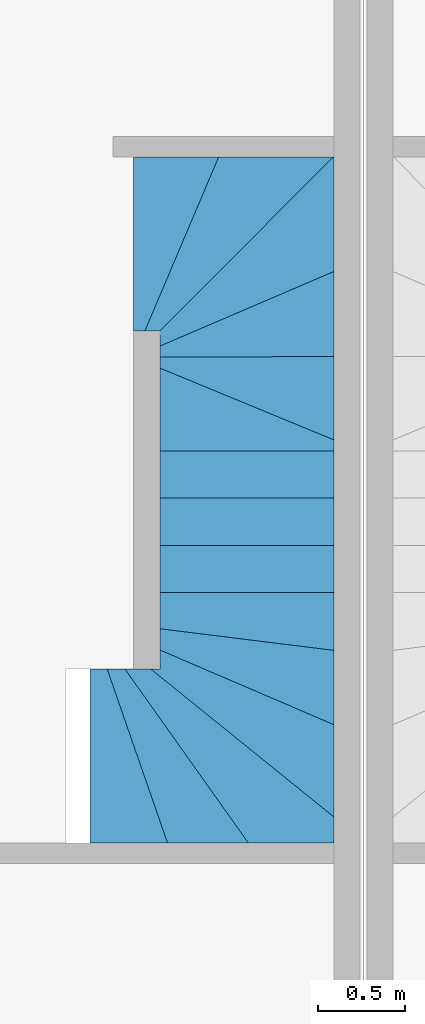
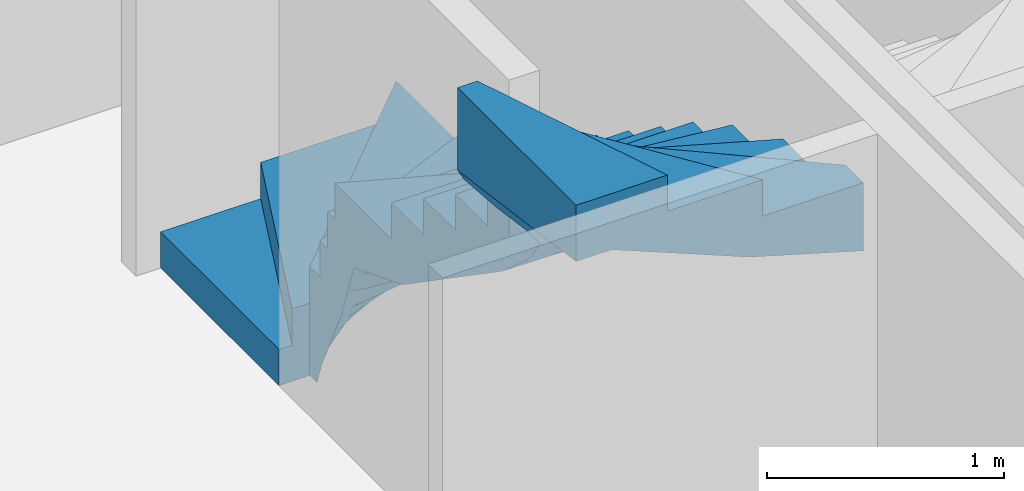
# One storey, part 5 of 8: 1 stair.
"""IFC2X3 building model written with IfcOpenShell, lengths in metres."""

from ifc_helpers import new_model, entity, si_unit, converted_unit, money_unit, direction, frame, origin_with_axes, place, context, subcontext, project, spatial, faceted_brep, source, transform, mapped, material, element, save


model = new_model("IFC2X3")

# Units and contexts
model_context = context("Model", 3, precision=1e-05, world=origin_with_axes(), true_north=direction((0.0, 1.0)))
body_context = subcontext(model_context, "Body", "Model", "MODEL_VIEW")
ifc_project = project(units=[si_unit("LENGTHUNIT", "METRE"), si_unit("AREAUNIT", "SQUARE_METRE"), si_unit("VOLUMEUNIT", "CUBIC_METRE"), converted_unit("PLANEANGLEUNIT", "DEGREE", entity("IfcPlaneAngleMeasure", 0.0174532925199), si_unit("PLANEANGLEUNIT", "RADIAN"), dimensions=[0, 0, 0, 0, 0, 0, 0]), si_unit("SOLIDANGLEUNIT", "STERADIAN"), money_unit("EUR"), si_unit("TIMEUNIT", "SECOND"), si_unit("MASSUNIT", "GRAM"), si_unit("THERMODYNAMICTEMPERATUREUNIT", "DEGREE_CELSIUS"), si_unit("LUMINOUSINTENSITYUNIT", "LUMEN")], contexts=[model_context])

# Site, building, storey
site_placement = place(None, origin_with_axes())
site = spatial("IfcSite", under=ifc_project, at=site_placement, Name="Gelände", CompositionType="ELEMENT")
building_placement = place(site_placement, origin_with_axes())
building = spatial("IfcBuilding", under=site, at=building_placement, Name="Gebäude", CompositionType="ELEMENT")
storey_placement = place(building_placement, origin_with_axes())
storey = spatial("IfcBuildingStorey", under=building, at=storey_placement, Name="Erdgeschoss", CompositionType="ELEMENT", Elevation=0.0)

# Stair
ifc_material = material(Name="Beton")
shared_shape = source(origin_with_axes(), body_context, "Body", "Brep", [
    faceted_brep([(0.0, 0.0, 0.0), (1.0, 0.0, 0.0), (1.0, 0.0, 0.005), (0.0, 0.0, 0.005), (1.0, 0.0375, 0.0), (1.0, 0.0375, 0.18667), (1.0, 0.0, 0.18667), (0.0, 0.0, 0.18667), (0.0, 0.03966, 0.18667), (0.0, 0.03966, 0.0), (1.0, 0.06362, 0.0), (1.0, 0.06362, 0.18667), (0.0, 0.48778, 0.18667), (0.0, 0.47586, 0.18667), (0.0, 0.43621, 0.18667), (0.0, 0.39655, 0.18667), (0.0, 0.3569, 0.18667), (0.0, 0.31724, 0.18667), (0.0, 0.27759, 0.18667), (0.0, 0.23793, 0.18667), (0.0, 0.19828, 0.18667), (0.0, 0.15862, 0.18667), (0.0, 0.11897, 0.18667), (0.0, 0.07931, 0.18667), (0.0, 0.07931, 0.0), (1.0, 0.14947, 0.0), (1.0, 0.075, 0.0), (1.0, 0.075, 0.37333), (1.0, 0.06362, 0.37333), (0.0, 0.48778, 0.37333), (0.0, 0.47586, 0.0), (0.0, 0.48778, 0.0), (0.0, 0.43621, 0.0), (0.0, 0.39655, 0.0), (0.0, 0.3569, 0.0), (0.0, 0.31724, 0.0), (0.0, 0.27759, 0.0), (0.0, 0.23793, 0.0), (0.0, 0.19828, 0.0), (0.0, 0.15862, 0.0), (0.0, 0.11897, 0.0), (1.0, 0.1125, 0.0), (1.0, 0.1125, 0.37333), (1.0, 0.14947, 0.37333), (0.0, 1.14594, 0.37333), (0.0, 1.11034, 0.37333), (0.0, 1.07069, 0.37333), (0.0, 1.03103, 0.37333), (0.0, 0.99138, 0.37333), (0.0, 0.95172, 0.37333), (0.0, 0.91207, 0.37333), (0.0, 0.87241, 0.37333), (0.0, 0.83276, 0.37333), (0.0, 0.7931, 0.37333), (0.0, 0.75345, 0.37333), (0.0, 0.71379, 0.37333), (0.0, 0.67414, 0.37333), (0.0, 0.63448, 0.37333), (0.0, 0.59483, 0.37333), (0.0, 0.5626, 0.37333), (0.0, 0.55517, 0.37333), (0.0, 0.51552, 0.37333), (0.0, 0.51552, 0.0), (1.0613, 0.15, 0.0), (1.0, 0.14947, 0.56), (0.0, 1.14594, 0.56), (0.0, 1.11034, 0.15496), (0.0, 1.14594, 0.16503), (0.0, 1.07069, 0.14374), (0.0, 1.03103, 0.13252), (0.0, 0.99138, 0.1213), (0.0, 0.95172, 0.11009), (0.0, 0.91207, 0.09887), (0.0, 0.87241, 0.08765), (0.0, 0.83276, 0.07643), (0.0, 0.7931, 0.06521), (0.0, 0.75345, 0.05399), (0.0, 0.71379, 0.04277), (0.0, 0.67414, 0.03155), (0.0, 0.63448, 0.02034), (0.0, 0.59483, 0.00912), (0.0, 0.5626, 0.0), (0.0, 0.55517, 0.0), (1.03959, 0.15, 0.0), (1.03959, 0.15, 0.56), (1.0613, 0.15, 0.56), (1.07918, 0.15, 0.56), (1.08574, 0.15, 0.56), (0.65732, 1.15, 0.56), (0.63677, 1.15, 0.56), (0.59697, 1.15, 0.56), (0.55717, 1.15, 0.56), (0.51737, 1.15, 0.56), (0.47758, 1.15, 0.56), (0.43778, 1.15, 0.56), (0.39798, 1.15, 0.56), (0.35818, 1.15, 0.56), (0.31838, 1.15, 0.56), (0.27859, 1.15, 0.56), (0.23879, 1.15, 0.56), (0.19899, 1.15, 0.56), (0.15919, 1.15, 0.56), (0.11939, 1.15, 0.56), (0.0796, 1.15, 0.56), (0.0398, 1.15, 0.56), (0.0, 1.15, 0.56), (0.0, 1.15, 0.16618), (1.11878, 0.15, 0.15398), (1.09962, 0.15, 0.11243), (1.08574, 0.15, 0.0717), (1.07918, 0.15, 0.05248), (1.08574, 0.15, 0.74667), (0.65732, 1.15, 0.74667), (0.63677, 1.15, 0.34633), (0.65732, 1.15, 0.35214), (0.59697, 1.15, 0.33507), (0.55717, 1.15, 0.32381), (0.51737, 1.15, 0.31255), (0.47758, 1.15, 0.30129), (0.43778, 1.15, 0.29003), (0.39798, 1.15, 0.27877), (0.35818, 1.15, 0.26751), (0.31838, 1.15, 0.25625), (0.27859, 1.15, 0.245), (0.23879, 1.15, 0.23374), (0.19899, 1.15, 0.22248), (0.15919, 1.15, 0.21122), (0.11939, 1.15, 0.19996), (0.0796, 1.15, 0.1887), (0.0398, 1.15, 0.17744), (1.09962, 0.15, 0.74667), (1.11878, 0.15, 0.74667), (1.14942, 0.15, 0.74667), (1.14554, 1.15, 0.74667), (1.11434, 1.15, 0.74667), (1.07455, 1.15, 0.74667), (1.03475, 1.15, 0.74667), (0.99495, 1.15, 0.74667), (0.95515, 1.15, 0.74667), (0.91535, 1.15, 0.74667), (0.87556, 1.15, 0.74667), (0.83576, 1.15, 0.74667), (0.79596, 1.15, 0.74667), (0.75616, 1.15, 0.74667), (0.72033, 1.15, 0.74667), (0.71636, 1.15, 0.74667), (0.67657, 1.15, 0.74667), (0.67657, 1.15, 0.35759), (1.21189, 0.15, 0.35593), (1.19796, 0.15, 0.32571), (1.15837, 0.15, 0.23985), (1.14942, 0.15, 0.22044), (1.14942, 0.15, 0.93333), (1.14554, 1.15, 0.93333), (1.11434, 1.15, 0.52217), (1.14554, 1.15, 0.53422), (1.07455, 1.15, 0.50679), (1.03475, 1.15, 0.49142), (0.99495, 1.15, 0.47605), (0.95515, 1.15, 0.46067), (0.91535, 1.15, 0.4453), (0.87556, 1.15, 0.42993), (0.83576, 1.15, 0.41456), (0.79596, 1.15, 0.39918), (0.75616, 1.15, 0.38381), (0.72033, 1.15, 0.36997), (0.71636, 1.15, 0.36885), (1.15837, 0.15, 0.93333), (1.19796, 0.15, 0.93333), (1.21189, 0.15, 0.93333), (1.62451, 1.15, 0.93333), (1.59192, 1.15, 0.93333), (1.55212, 1.15, 0.93333), (1.51232, 1.15, 0.93333), (1.47253, 1.15, 0.93333), (1.43273, 1.15, 0.93333), (1.39293, 1.15, 0.93333), (1.35313, 1.15, 0.93333), (1.31333, 1.15, 0.93333), (1.27354, 1.15, 0.93333), (1.23374, 1.15, 0.93333), (1.19394, 1.15, 0.93333), (1.15414, 1.15, 0.93333), (1.15414, 1.15, 0.53754), (1.27714, 0.15, 0.50173), (1.27166, 0.15, 0.48556), (1.23755, 0.15, 0.41158), (1.21189, 0.15, 1.12), (1.62451, 1.15, 1.12), (1.59192, 1.15, 0.70664), (1.62451, 1.15, 0.71923), (1.55212, 1.15, 0.69127), (1.51232, 1.15, 0.6759), (1.47253, 1.15, 0.66052), (1.43273, 1.15, 0.64515), (1.39293, 1.15, 0.62978), (1.35313, 1.15, 0.6144), (1.31333, 1.15, 0.59903), (1.27354, 1.15, 0.58366), (1.23374, 1.15, 0.56829), (1.19394, 1.15, 0.55291), (1.23755, 0.15, 1.12), (1.27166, 0.15, 1.12), (1.27714, 0.15, 1.12), (1.31673, 0.15, 1.12), (1.35633, 0.15, 1.12), (1.37187, 0.15, 1.12), (1.39592, 0.15, 1.12), (1.43551, 0.15, 1.12), (1.4751, 0.15, 1.12), (1.51469, 0.15, 1.12), (1.55429, 0.15, 1.12), (1.59388, 0.15, 1.12), (1.63347, 0.15, 1.12), (1.67306, 0.15, 1.12), (1.68892, 0.15, 1.12), (1.68892, 1.15, 1.12), (1.67152, 1.15, 1.12), (1.63172, 1.15, 1.12), (1.63172, 1.15, 0.72201), (1.35633, 0.15, 0.73532), (1.31673, 0.15, 0.61852), (1.37187, 0.15, 0.78117), (1.39592, 0.15, 0.79058), (1.43551, 0.15, 0.80607), (1.4751, 0.15, 0.82156), (1.51469, 0.15, 0.83706), (1.55429, 0.15, 0.85255), (1.59388, 0.15, 0.86804), (1.63347, 0.15, 0.88353), (1.67306, 0.15, 0.89903), (1.68892, 0.15, 0.90523), (1.68892, 0.15, 1.30667), (1.68892, 1.15, 1.30667), (1.67152, 1.15, 0.73739), (1.68892, 1.15, 0.74411), (1.71131, 1.15, 0.75276), (1.78338, 1.15, 0.7806), (1.79091, 1.15, 0.80242), (1.83071, 1.15, 0.91776), (1.71265, 0.15, 0.91452), (1.71265, 0.15, 1.30667), (1.75224, 0.15, 1.30667), (1.78338, 0.15, 1.30667), (1.79184, 0.15, 1.30667), (1.83143, 0.15, 1.30667), (1.87102, 0.15, 1.30667), (1.91061, 0.15, 1.30667), (1.9502, 0.15, 1.30667), (1.95964, 0.15, 1.30667), (1.95964, 1.15, 1.30667), (1.9501, 1.15, 1.30667), (1.9103, 1.15, 1.30667), (1.87051, 1.15, 1.30667), (1.85655, 1.15, 1.30667), (1.83071, 1.15, 1.30667), (1.79091, 1.15, 1.30667), (1.78338, 1.15, 1.30667), (1.75111, 1.15, 1.30667), (1.71131, 1.15, 1.30667), (1.75111, 1.15, 0.76813), (1.75224, 0.15, 0.93001), (1.78338, 0.15, 0.94219), (1.79184, 0.15, 0.94803), (1.83143, 0.15, 0.97533), (1.87102, 0.15, 1.00263), (1.91061, 0.15, 1.02993), (1.9502, 0.15, 1.05723), (1.95964, 0.15, 1.06373), (1.95964, 0.15, 1.49333), (1.95964, 1.15, 1.49333), (1.9501, 1.15, 1.05715), (1.95964, 1.15, 1.06373), (1.9103, 1.15, 1.02971), (1.87051, 1.15, 1.00227), (1.85655, 1.15, 0.99265), (1.9898, 0.15, 1.08452), (1.9898, 0.15, 1.49333), (2.02939, 0.15, 1.49333), (2.06898, 0.15, 1.49333), (2.10857, 0.15, 1.49333), (2.14816, 0.15, 1.49333), (2.18776, 0.15, 1.49333), (2.22735, 0.15, 1.49333), (2.23036, 0.15, 1.49333), (2.23036, 1.15, 1.49333), (2.22869, 1.15, 1.49333), (2.18889, 1.15, 1.49333), (2.14909, 1.15, 1.49333), (2.10929, 1.15, 1.49333), (2.06949, 1.15, 1.49333), (2.0297, 1.15, 1.49333), (1.9899, 1.15, 1.49333), (1.9899, 1.15, 1.0846), (2.02939, 0.15, 1.11182), (2.06898, 0.15, 1.13912), (2.10857, 0.15, 1.16642), (2.14816, 0.15, 1.19372), (2.18776, 0.15, 1.22102), (2.22735, 0.15, 1.24832), (2.23036, 0.15, 1.2504), (2.23036, 0.15, 1.68), (2.23036, 1.15, 1.68), (2.22869, 1.15, 1.24924), (2.23036, 1.15, 1.2504), (2.18889, 1.15, 1.2218), (2.14909, 1.15, 1.19436), (2.10929, 1.15, 1.16692), (2.06949, 1.15, 1.13948), (2.0297, 1.15, 1.11204), (2.26694, 0.15, 1.27562), (2.26694, 0.15, 1.68), (2.30653, 0.15, 1.68), (2.34612, 0.15, 1.68), (2.38571, 0.15, 1.68), (2.42531, 0.15, 1.68), (2.4649, 0.15, 1.68), (2.50108, 0.15, 1.68), (2.50108, 1.15, 1.68), (2.46747, 1.15, 1.68), (2.42768, 1.15, 1.68), (2.38788, 1.15, 1.68), (2.34808, 1.15, 1.68), (2.30828, 1.15, 1.68), (2.26848, 1.15, 1.68), (2.26848, 1.15, 1.27669), (2.30653, 0.15, 1.30292), (2.34612, 0.15, 1.33022), (2.38571, 0.15, 1.35752), (2.42531, 0.15, 1.38482), (2.4649, 0.15, 1.41212), (2.50108, 0.15, 1.43706), (2.50108, 0.15, 1.86667), (2.50108, 1.15, 1.86667), (2.46747, 1.15, 1.41389), (2.50108, 1.15, 1.43706), (2.42768, 1.15, 1.38645), (2.38788, 1.15, 1.35901), (2.34808, 1.15, 1.33157), (2.30828, 1.15, 1.30413), (2.50449, 0.15, 1.43942), (2.50449, 0.15, 1.86667), (2.54408, 0.15, 1.86667), (2.58367, 0.15, 1.86667), (2.62327, 0.15, 1.86667), (2.62502, 0.15, 1.86667), (2.66286, 0.15, 1.86667), (2.70245, 0.15, 1.86667), (2.70969, 0.15, 1.86667), (2.83391, 1.15, 1.86667), (2.82566, 1.15, 1.86667), (2.78586, 1.15, 1.86667), (2.74606, 1.15, 1.86667), (2.70626, 1.15, 1.86667), (2.66646, 1.15, 1.86667), (2.62667, 1.15, 1.86667), (2.60699, 1.15, 1.86667), (2.58687, 1.15, 1.86667), (2.54707, 1.15, 1.86667), (2.50727, 1.15, 1.86667), (2.50727, 1.15, 1.44134), (2.54408, 0.15, 1.46672), (2.58367, 0.15, 1.49401), (2.62327, 0.15, 1.52131), (2.62502, 0.15, 1.52253), (2.66286, 0.15, 1.55638), (2.70245, 0.15, 1.59181), (2.70969, 0.15, 1.59829), (2.70969, 0.15, 2.05333), (2.83391, 1.15, 2.05333), (2.82566, 1.15, 1.63273), (2.83391, 1.15, 1.63736), (2.78586, 1.15, 1.61041), (2.74606, 1.15, 1.58809), (2.70626, 1.15, 1.56577), (2.66646, 1.15, 1.54345), (2.62667, 1.15, 1.52113), (2.60699, 1.15, 1.51009), (2.58687, 1.15, 1.49622), (2.54707, 1.15, 1.46878), (2.74204, 0.15, 1.62724), (2.74204, 0.15, 2.05333), (2.78163, 0.15, 2.05333), (2.82122, 0.15, 2.05333), (2.83169, 0.15, 2.05333), (3.26091, 1.15, 2.05333), (3.22364, 1.15, 2.05333), (3.18384, 1.15, 2.05333), (3.14404, 1.15, 2.05333), (3.10424, 1.15, 2.05333), (3.06444, 1.15, 2.05333), (3.02465, 1.15, 2.05333), (2.98485, 1.15, 2.05333), (2.94505, 1.15, 2.05333), (2.9231, 1.15, 2.05333), (2.90525, 1.15, 2.05333), (2.86545, 1.15, 2.05333), (2.86545, 1.15, 1.65505), (2.78163, 0.15, 1.66266), (2.82122, 0.15, 1.69809), (2.83169, 0.15, 1.70745), (2.83169, 0.15, 2.24), (3.26091, 1.15, 2.24), (3.22364, 1.15, 1.81876), (3.26091, 1.15, 1.83506), (3.18384, 1.15, 1.80137), (3.14404, 1.15, 1.78397), (3.10424, 1.15, 1.76657), (3.06444, 1.15, 1.74917), (3.02465, 1.15, 1.73177), (2.98485, 1.15, 1.71438), (2.94505, 1.15, 1.69698), (2.9231, 1.15, 1.68738), (2.90525, 1.15, 1.67737), (2.86082, 0.15, 1.73352), (2.86082, 0.15, 2.24), (2.86269, 0.15, 2.24), (2.90041, 0.15, 2.24), (2.94, 0.15, 2.24), (2.94, 0.11364, 2.24), (2.94, 0.09828, 2.24), (2.94, 0.09667, 2.24), (3.79076, 1.15, 2.24), (3.78081, 1.15, 2.24), (3.74101, 1.15, 2.24), (3.70121, 1.15, 2.24), (3.66141, 1.15, 2.24), (3.62162, 1.15, 2.24), (3.58182, 1.15, 2.24), (3.54202, 1.15, 2.24), (3.50222, 1.15, 2.24), (3.46242, 1.15, 2.24), (3.42263, 1.15, 2.24), (3.38283, 1.15, 2.24), (3.34303, 1.15, 2.24), (3.33429, 1.15, 2.24), (3.30323, 1.15, 2.24), (3.26343, 1.15, 2.24), (3.26343, 1.15, 1.83616), (2.94, 0.15, 1.85348), (2.90041, 0.15, 1.79291), (2.86269, 0.15, 1.73519), (2.94, 0.11364, 1.90912), (2.94, 0.09828, 1.93262), (2.94, 0.09667, 1.93448), (2.94, 0.09667, 2.42667), (3.79076, 1.15, 2.42667), (3.78081, 1.15, 2.02445), (3.79076, 1.15, 2.02795), (3.74101, 1.15, 2.01042), (3.70121, 1.15, 1.9964), (3.66141, 1.15, 1.98238), (3.62162, 1.15, 1.96836), (3.58182, 1.15, 1.95434), (3.54202, 1.15, 1.94032), (3.50222, 1.15, 1.9263), (3.46242, 1.15, 1.91228), (3.42263, 1.15, 1.89826), (3.38283, 1.15, 1.88424), (3.34303, 1.15, 1.87022), (3.33429, 1.15, 1.86714), (3.30323, 1.15, 1.85356), (2.94, 0.07727, 1.95688), (2.94, 0.07727, 2.42667), (2.94, 0.04091, 2.42667), (2.94, 0.00455, 2.42667), (2.94, -0.03182, 2.42667), (2.94, -0.05125, 2.42667), (3.94, 0.65858, 2.42667), (3.94, 0.68333, 2.42667), (3.94, 0.72222, 2.42667), (3.94, 0.76111, 2.42667), (3.94, 0.8, 2.42667), (3.94, 0.83889, 2.42667), (3.94, 0.87778, 2.42667), (3.94, 0.91667, 2.42667), (3.94, 0.95556, 2.42667), (3.94, 0.99444, 2.42667), (3.94, 1.03333, 2.42667), (3.94, 1.07222, 2.42667), (3.94, 1.11111, 2.42667), (3.94, 1.15, 2.42667), (3.9002, 1.15, 2.42667), (3.8604, 1.15, 2.42667), (3.85201, 1.15, 2.42667), (3.82061, 1.15, 2.42667), (3.82061, 1.15, 2.03847), (2.94, 0.00455, 2.04086), (2.94, 0.04091, 1.99887), (2.94, -0.03182, 2.08286), (2.94, -0.05125, 2.1053), (2.94, -0.05125, 2.61333), (3.94, 0.65858, 2.61333), (3.94, 0.68333, 2.21114), (3.94, 0.65858, 2.21835), (3.94, 0.72222, 2.19981), (3.94, 0.76111, 2.18848), (3.94, 0.8, 2.17715), (3.94, 0.83889, 2.16581), (3.94, 0.87778, 2.15448), (3.94, 0.91667, 2.14315), (3.94, 0.95556, 2.13182), (3.94, 0.99444, 2.12049), (3.94, 1.03333, 2.10916), (3.94, 1.07222, 2.09783), (3.94, 1.11111, 2.0865), (3.94, 1.15, 2.07517), (3.9002, 1.15, 2.06357), (3.8604, 1.15, 2.05198), (3.85201, 1.15, 2.04953), (2.94, -0.05738, 2.11237), (2.94, -0.05738, 2.61333), (2.94, -0.06818, 2.61333), (2.94, -0.10455, 2.61333), (2.94, -0.14091, 2.61333), (2.94, -0.15282, 2.61333), (3.94, 0.19426, 2.61333), (3.94, 0.21667, 2.61333), (3.94, 0.25556, 2.61333), (3.94, 0.29444, 2.61333), (3.94, 0.33333, 2.61333), (3.94, 0.37222, 2.61333), (3.94, 0.41111, 2.61333), (3.94, 0.45, 2.61333), (3.94, 0.48889, 2.61333), (3.94, 0.52778, 2.61333), (3.94, 0.56667, 2.61333), (3.94, 0.59315, 2.61333), (3.94, 0.60556, 2.61333), (3.94, 0.64444, 2.61333), (3.94, 0.64444, 2.22247), (2.94, -0.14091, 2.21779), (2.94, -0.10455, 2.1719), (2.94, -0.06818, 2.12601), (2.94, -0.15282, 2.23282), (2.94, -0.15282, 2.8), (3.94, 0.19426, 2.8), (3.94, 0.21667, 2.39075), (3.94, 0.19426, 2.39988), (3.94, 0.25556, 2.37491), (3.94, 0.29444, 2.35907), (3.94, 0.33333, 2.34324), (3.94, 0.37222, 2.3274), (3.94, 0.41111, 2.31156), (3.94, 0.45, 2.29572), (3.94, 0.48889, 2.27988), (3.94, 0.52778, 2.26404), (3.94, 0.56667, 2.2482), (3.94, 0.59315, 2.23742), (3.94, 0.60556, 2.2338), (2.94, -0.17727, 2.26368), (2.94, -0.17727, 2.8), (2.94, -0.21364, 2.8), (2.94, -0.21869, 2.8), (2.94, -0.25, 2.8), (3.94, -0.25, 2.8), (3.94, -0.21111, 2.8), (3.94, -0.17222, 2.8), (3.94, -0.13333, 2.8), (3.94, -0.09444, 2.8), (3.94, -0.07611, 2.8), (3.94, -0.05556, 2.8), (3.94, -0.01667, 2.8), (3.94, 0.02222, 2.8), (3.94, 0.06111, 2.8), (3.94, 0.1, 2.8), (3.94, 0.13889, 2.8), (3.94, 0.17778, 2.8), (3.94, 0.17778, 2.40659), (2.94, -0.25, 2.37348), (2.94, -0.21869, 2.31595), (2.94, -0.21364, 2.30957), (3.94, -0.25, 2.51), (3.94, -0.21111, 2.51), (3.94, -0.17222, 2.51), (3.94, -0.13333, 2.51), (3.94, -0.09444, 2.51), (3.94, -0.07611, 2.51), (3.94, -0.05556, 2.50163), (3.94, -0.01667, 2.48579), (3.94, 0.02222, 2.46995), (3.94, 0.06111, 2.45411), (3.94, 0.1, 2.43827), (3.94, 0.13889, 2.42243)], [[[0, 1, 2, 3]], [[1, 0, 4]], [[1, 4, 5, 6, 2]], [[3, 2, 6, 7]], [[0, 3, 7, 8, 9]], [[4, 0, 10]], [[4, 10, 11, 5]], [[7, 6, 5, 11, 12, 13, 14, 15, 16, 17, 18, 19, 20, 21, 22, 23, 8]], [[9, 8, 23, 24]], [[25, 0, 9]], [[10, 0, 26]], [[10, 26, 27, 28, 11]], [[12, 11, 28, 29]], [[30, 13, 12, 31]], [[32, 14, 13, 30]], [[33, 15, 14, 32]], [[34, 16, 15, 33]], [[35, 17, 16, 34]], [[36, 18, 17, 35]], [[37, 19, 18, 36]], [[38, 20, 19, 37]], [[39, 21, 20, 38]], [[40, 22, 21, 39]], [[24, 23, 22, 40]], [[25, 9, 24]], [[41, 0, 25]], [[26, 0, 41]], [[26, 41, 42, 27]], [[29, 28, 27, 42, 43, 44, 45, 46, 47, 48, 49, 50, 51, 52, 53, 54, 55, 56, 57, 58, 59, 60, 61]], [[31, 12, 29, 61, 62]], [[63, 30, 31]], [[63, 32, 30]], [[63, 33, 32]], [[63, 34, 33]], [[63, 35, 34]], [[63, 36, 35]], [[63, 37, 36]], [[63, 38, 37]], [[63, 39, 38]], [[25, 40, 39]], [[25, 24, 40]], [[41, 25, 43, 42]], [[44, 43, 64, 65]], [[66, 45, 44, 67]], [[68, 46, 45, 66]], [[69, 47, 46, 68]], [[70, 48, 47, 69]], [[71, 49, 48, 70]], [[72, 50, 49, 71]], [[73, 51, 50, 72]], [[74, 52, 51, 73]], [[75, 53, 52, 74]], [[76, 54, 53, 75]], [[77, 55, 54, 76]], [[78, 56, 55, 77]], [[79, 57, 56, 78]], [[80, 58, 57, 79]], [[81, 59, 58, 80]], [[82, 60, 59, 81]], [[62, 61, 60, 82]], [[63, 31, 62]], [[83, 39, 63]], [[25, 39, 83]], [[25, 83, 84, 64, 43]], [[65, 64, 84, 85, 86, 87, 88, 89, 90, 91, 92, 93, 94, 95, 96, 97, 98, 99, 100, 101, 102, 103, 104, 105]], [[67, 44, 65, 105, 106]], [[107, 66, 67]], [[107, 68, 66]], [[107, 69, 68]], [[108, 70, 69]], [[108, 71, 70]], [[108, 72, 71]], [[108, 73, 72]], [[109, 74, 73]], [[109, 75, 74]], [[110, 76, 75]], [[110, 77, 76]], [[110, 78, 77]], [[63, 79, 78]], [[63, 80, 79]], [[63, 81, 80]], [[63, 82, 81]], [[63, 62, 82]], [[83, 63, 85, 84]], [[63, 110, 86, 85]], [[110, 109, 87, 86]], [[88, 87, 111, 112]], [[113, 89, 88, 114]], [[115, 90, 89, 113]], [[116, 91, 90, 115]], [[117, 92, 91, 116]], [[118, 93, 92, 117]], [[119, 94, 93, 118]], [[120, 95, 94, 119]], [[121, 96, 95, 120]], [[122, 97, 96, 121]], [[123, 98, 97, 122]], [[124, 99, 98, 123]], [[125, 100, 99, 124]], [[126, 101, 100, 125]], [[127, 102, 101, 126]], [[128, 103, 102, 127]], [[129, 104, 103, 128]], [[106, 105, 104, 129]], [[107, 67, 106]], [[108, 69, 107]], [[109, 73, 108]], [[110, 75, 109]], [[63, 78, 110]], [[109, 108, 130, 111, 87]], [[112, 111, 130, 131, 132, 133, 134, 135, 136, 137, 138, 139, 140, 141, 142, 143, 144, 145, 146]], [[114, 88, 112, 146, 147]], [[148, 113, 114]], [[149, 115, 113]], [[149, 116, 115]], [[149, 117, 116]], [[149, 118, 117]], [[149, 119, 118]], [[149, 120, 119]], [[150, 121, 120]], [[150, 122, 121]], [[150, 123, 122]], [[150, 124, 123]], [[151, 125, 124]], [[151, 126, 125]], [[151, 127, 126]], [[151, 128, 127]], [[107, 129, 128]], [[107, 106, 129]], [[108, 107, 131, 130]], [[107, 151, 132, 131]], [[133, 132, 152, 153]], [[154, 134, 133, 155]], [[156, 135, 134, 154]], [[157, 136, 135, 156]], [[158, 137, 136, 157]], [[159, 138, 137, 158]], [[160, 139, 138, 159]], [[161, 140, 139, 160]], [[162, 141, 140, 161]], [[163, 142, 141, 162]], [[164, 143, 142, 163]], [[165, 144, 143, 164]], [[166, 145, 144, 165]], [[147, 146, 145, 166]], [[148, 114, 147]], [[149, 113, 148]], [[150, 120, 149]], [[151, 124, 150]], [[107, 128, 151]], [[151, 150, 167, 152, 132]], [[153, 152, 167, 168, 169, 170, 171, 172, 173, 174, 175, 176, 177, 178, 179, 180, 181, 182]], [[155, 133, 153, 182, 183]], [[184, 154, 155]], [[184, 156, 154]], [[184, 157, 156]], [[185, 158, 157]], [[185, 159, 158]], [[185, 160, 159]], [[186, 161, 160]], [[186, 162, 161]], [[186, 163, 162]], [[186, 164, 163]], [[148, 165, 164]], [[148, 166, 165]], [[148, 147, 166]], [[149, 148, 169, 168]], [[150, 149, 168, 167]], [[170, 169, 187, 188]], [[189, 171, 170, 190]], [[191, 172, 171, 189]], [[192, 173, 172, 191]], [[193, 174, 173, 192]], [[194, 175, 174, 193]], [[195, 176, 175, 194]], [[196, 177, 176, 195]], [[197, 178, 177, 196]], [[198, 179, 178, 197]], [[199, 180, 179, 198]], [[200, 181, 180, 199]], [[183, 182, 181, 200]], [[184, 155, 183]], [[185, 157, 184]], [[186, 160, 185]], [[148, 164, 186]], [[148, 186, 201, 187, 169]], [[188, 187, 201, 202, 203, 204, 205, 206, 207, 208, 209, 210, 211, 212, 213, 214, 215, 216, 217, 218]], [[190, 170, 188, 218, 219]], [[220, 189, 190]], [[220, 191, 189]], [[220, 192, 191]], [[221, 193, 192]], [[221, 194, 193]], [[221, 195, 194]], [[221, 196, 195]], [[221, 197, 196]], [[221, 198, 197]], [[221, 199, 198]], [[221, 200, 199]], [[184, 183, 200]], [[185, 184, 203, 202]], [[186, 185, 202, 201]], [[184, 221, 204, 203]], [[221, 220, 205, 204]], [[220, 222, 206, 205]], [[222, 223, 207, 206]], [[223, 224, 208, 207]], [[224, 225, 209, 208]], [[225, 226, 210, 209]], [[226, 227, 211, 210]], [[227, 228, 212, 211]], [[228, 229, 213, 212]], [[229, 230, 214, 213]], [[230, 231, 215, 214]], [[216, 215, 232, 233]], [[234, 217, 216, 235]], [[219, 218, 217, 234]], [[220, 190, 219]], [[221, 192, 220]], [[184, 200, 221]], [[220, 236, 222]], [[222, 237, 223]], [[223, 238, 224]], [[224, 238, 225]], [[225, 238, 226]], [[226, 238, 227]], [[227, 239, 228]], [[228, 239, 229]], [[229, 239, 230]], [[230, 239, 231]], [[231, 240, 241, 232, 215]], [[233, 232, 241, 242, 243, 244, 245, 246, 247, 248, 249, 250, 251, 252, 253, 254, 255, 256, 257, 258, 259]], [[235, 216, 233, 259, 236]], [[220, 234, 235]], [[220, 219, 234]], [[220, 235, 236]], [[222, 236, 260]], [[222, 260, 237]], [[223, 237, 238]], [[227, 238, 239]], [[231, 239, 240]], [[240, 261, 242, 241]], [[261, 262, 243, 242]], [[262, 263, 244, 243]], [[263, 264, 245, 244]], [[264, 265, 246, 245]], [[265, 266, 247, 246]], [[266, 267, 248, 247]], [[267, 268, 249, 248]], [[250, 249, 269, 270]], [[271, 251, 250, 272]], [[273, 252, 251, 271]], [[274, 253, 252, 273]], [[275, 254, 253, 274]], [[239, 255, 254, 275]], [[238, 256, 255, 239]], [[237, 257, 256, 238]], [[260, 258, 257, 237]], [[236, 259, 258, 260]], [[240, 239, 261]], [[261, 239, 262]], [[262, 239, 263]], [[263, 275, 264]], [[264, 275, 265]], [[265, 273, 266]], [[266, 271, 267]], [[267, 272, 268]], [[268, 276, 277, 269, 249]], [[270, 269, 277, 278, 279, 280, 281, 282, 283, 284, 285, 286, 287, 288, 289, 290, 291, 292]], [[272, 250, 270, 292, 293]], [[267, 271, 272]], [[266, 273, 271]], [[265, 274, 273]], [[265, 275, 274]], [[263, 239, 275]], [[268, 272, 276]], [[276, 294, 278, 277]], [[294, 295, 279, 278]], [[295, 296, 280, 279]], [[296, 297, 281, 280]], [[297, 298, 282, 281]], [[298, 299, 283, 282]], [[299, 300, 284, 283]], [[285, 284, 301, 302]], [[303, 286, 285, 304]], [[305, 287, 286, 303]], [[306, 288, 287, 305]], [[307, 289, 288, 306]], [[308, 290, 289, 307]], [[309, 291, 290, 308]], [[293, 292, 291, 309]], [[276, 272, 293]], [[276, 293, 294]], [[294, 309, 295]], [[295, 308, 296]], [[296, 307, 297]], [[297, 306, 298]], [[298, 305, 299]], [[299, 303, 300]], [[300, 310, 311, 301, 284]], [[302, 301, 311, 312, 313, 314, 315, 316, 317, 318, 319, 320, 321, 322, 323, 324]], [[304, 285, 302, 324, 325]], [[300, 303, 304]], [[299, 305, 303]], [[298, 306, 305]], [[297, 307, 306]], [[296, 308, 307]], [[295, 309, 308]], [[294, 293, 309]], [[300, 304, 310]], [[310, 326, 312, 311]], [[326, 327, 313, 312]], [[327, 328, 314, 313]], [[328, 329, 315, 314]], [[329, 330, 316, 315]], [[330, 331, 317, 316]], [[318, 317, 332, 333]], [[334, 319, 318, 335]], [[336, 320, 319, 334]], [[337, 321, 320, 336]], [[338, 322, 321, 337]], [[339, 323, 322, 338]], [[325, 324, 323, 339]], [[310, 304, 325]], [[310, 325, 326]], [[326, 339, 327]], [[327, 338, 328]], [[328, 337, 329]], [[329, 336, 330]], [[330, 334, 331]], [[331, 340, 341, 332, 317]], [[333, 332, 341, 342, 343, 344, 345, 346, 347, 348, 349, 350, 351, 352, 353, 354, 355, 356, 357, 358, 359]], [[335, 318, 333, 359, 360]], [[331, 334, 335]], [[330, 336, 334]], [[329, 337, 336]], [[328, 338, 337]], [[327, 339, 338]], [[326, 325, 339]], [[331, 335, 340]], [[340, 361, 342, 341]], [[361, 362, 343, 342]], [[362, 363, 344, 343]], [[363, 364, 345, 344]], [[364, 365, 346, 345]], [[365, 366, 347, 346]], [[366, 367, 348, 347]], [[349, 348, 368, 369]], [[370, 350, 349, 371]], [[372, 351, 350, 370]], [[373, 352, 351, 372]], [[374, 353, 352, 373]], [[375, 354, 353, 374]], [[376, 355, 354, 375]], [[377, 356, 355, 376]], [[378, 357, 356, 377]], [[379, 358, 357, 378]], [[360, 359, 358, 379]], [[340, 335, 360]], [[340, 360, 361]], [[361, 379, 362]], [[362, 377, 363]], [[363, 376, 364]], [[364, 375, 365]], [[365, 374, 366]], [[366, 373, 367]], [[367, 380, 381, 368, 348]], [[369, 368, 381, 382, 383, 384, 385, 386, 387, 388, 389, 390, 391, 392, 393, 394, 395, 396]], [[371, 349, 369, 396, 397]], [[380, 370, 371]], [[380, 372, 370]], [[367, 373, 372]], [[366, 374, 373]], [[365, 375, 374]], [[364, 376, 375]], [[363, 377, 376]], [[362, 378, 377]], [[362, 379, 378]], [[361, 360, 379]], [[367, 372, 380]], [[380, 398, 382, 381]], [[398, 399, 383, 382]], [[399, 400, 384, 383]], [[385, 384, 401, 402]], [[403, 386, 385, 404]], [[405, 387, 386, 403]], [[406, 388, 387, 405]], [[407, 389, 388, 406]], [[408, 390, 389, 407]], [[409, 391, 390, 408]], [[410, 392, 391, 409]], [[411, 393, 392, 410]], [[412, 394, 393, 411]], [[413, 395, 394, 412]], [[397, 396, 395, 413]], [[398, 371, 397]], [[380, 371, 398]], [[398, 413, 399]], [[399, 411, 400]], [[400, 414, 415, 401, 384]], [[402, 401, 415, 416, 417, 418, 419, 420, 421, 422, 423, 424, 425, 426, 427, 428, 429, 430, 431, 432, 433, 434, 435, 436, 437]], [[404, 385, 402, 437, 438]], [[439, 403, 404]], [[440, 405, 403]], [[440, 406, 405]], [[440, 407, 406]], [[441, 408, 407]], [[441, 409, 408]], [[414, 410, 409]], [[400, 411, 410]], [[399, 412, 411]], [[399, 413, 412]], [[398, 397, 413]], [[400, 410, 414]], [[414, 441, 416, 415]], [[441, 440, 417, 416]], [[440, 439, 418, 417]], [[439, 442, 419, 418]], [[442, 443, 420, 419]], [[443, 444, 421, 420]], [[422, 421, 445, 446]], [[447, 423, 422, 448]], [[449, 424, 423, 447]], [[450, 425, 424, 449]], [[451, 426, 425, 450]], [[452, 427, 426, 451]], [[453, 428, 427, 452]], [[454, 429, 428, 453]], [[455, 430, 429, 454]], [[456, 431, 430, 455]], [[457, 432, 431, 456]], [[458, 433, 432, 457]], [[459, 434, 433, 458]], [[460, 435, 434, 459]], [[461, 436, 435, 460]], [[438, 437, 436, 461]], [[439, 404, 438]], [[440, 403, 439]], [[441, 407, 440]], [[414, 409, 441]], [[439, 458, 442]], [[442, 455, 443]], [[443, 454, 444]], [[444, 462, 463, 445, 421]], [[446, 445, 463, 464, 465, 466, 467, 468, 469, 470, 471, 472, 473, 474, 475, 476, 477, 478, 479, 480, 481, 482, 483, 484, 485]], [[448, 422, 446, 485, 486]], [[487, 447, 448]], [[488, 449, 447]], [[488, 450, 449]], [[488, 451, 450]], [[462, 452, 451]], [[462, 453, 452]], [[462, 454, 453]], [[443, 455, 454]], [[442, 456, 455]], [[442, 457, 456]], [[442, 458, 457]], [[439, 459, 458]], [[439, 460, 459]], [[439, 461, 460]], [[439, 438, 461]], [[444, 454, 462]], [[462, 488, 464, 463]], [[488, 487, 465, 464]], [[487, 489, 466, 465]], [[489, 490, 467, 466]], [[468, 467, 491, 492]], [[493, 469, 468, 494]], [[495, 470, 469, 493]], [[496, 471, 470, 495]], [[497, 472, 471, 496]], [[498, 473, 472, 497]], [[499, 474, 473, 498]], [[500, 475, 474, 499]], [[501, 476, 475, 500]], [[502, 477, 476, 501]], [[503, 478, 477, 502]], [[504, 479, 478, 503]], [[505, 480, 479, 504]], [[506, 481, 480, 505]], [[507, 482, 481, 506]], [[508, 483, 482, 507]], [[509, 484, 483, 508]], [[486, 485, 484, 509]], [[487, 448, 486]], [[488, 447, 487]], [[462, 451, 488]], [[487, 507, 489]], [[489, 504, 490]], [[490, 510, 511, 491, 467]], [[492, 491, 511, 512, 513, 514, 515, 516, 517, 518, 519, 520, 521, 522, 523, 524, 525, 526, 527, 528, 529]], [[494, 468, 492, 529, 530]], [[531, 493, 494]], [[531, 495, 493]], [[532, 496, 495]], [[532, 497, 496]], [[532, 498, 497]], [[532, 499, 498]], [[533, 500, 499]], [[533, 501, 500]], [[533, 502, 501]], [[510, 503, 502]], [[490, 504, 503]], [[489, 505, 504]], [[489, 506, 505]], [[489, 507, 506]], [[487, 508, 507]], [[487, 509, 508]], [[487, 486, 509]], [[490, 503, 510]], [[510, 533, 512, 511]], [[533, 532, 513, 512]], [[532, 531, 514, 513]], [[531, 534, 515, 514]], [[516, 515, 535, 536]], [[537, 517, 516, 538]], [[539, 518, 517, 537]], [[540, 519, 518, 539]], [[541, 520, 519, 540]], [[542, 521, 520, 541]], [[543, 522, 521, 542]], [[544, 523, 522, 543]], [[545, 524, 523, 544]], [[546, 525, 524, 545]], [[547, 526, 525, 546]], [[548, 527, 526, 547]], [[549, 528, 527, 548]], [[530, 529, 528, 549]], [[531, 494, 530]], [[532, 495, 531]], [[533, 499, 532]], [[510, 502, 533]], [[531, 530, 534]], [[534, 550, 551, 535, 515]], [[536, 535, 551, 552, 553, 554, 555, 556, 557, 558, 559, 560, 561, 562, 563, 564, 565, 566, 567]], [[538, 516, 536, 567, 568]], [[569, 537, 538]], [[569, 539, 537]], [[569, 540, 539]], [[569, 541, 540]], [[570, 542, 541]], [[570, 543, 542]], [[571, 544, 543]], [[571, 545, 544]], [[550, 546, 545]], [[550, 547, 546]], [[534, 548, 547]], [[534, 549, 548]], [[534, 530, 549]], [[534, 547, 550]], [[550, 571, 552, 551]], [[571, 570, 553, 552]], [[570, 569, 554, 553]], [[569, 572, 555, 554]], [[573, 556, 555, 572]], [[574, 557, 556, 573]], [[575, 558, 557, 574]], [[576, 559, 558, 575]], [[577, 560, 559, 576]], [[578, 561, 560, 577]], [[579, 562, 561, 578]], [[580, 563, 562, 579]], [[581, 564, 563, 580]], [[582, 565, 564, 581]], [[583, 566, 565, 582]], [[568, 567, 566, 583]], [[569, 538, 568]], [[570, 541, 569]], [[571, 543, 570]], [[550, 545, 571]], [[569, 573, 572]], [[569, 574, 573]], [[569, 575, 574]], [[569, 576, 575]], [[569, 577, 576]], [[569, 578, 577]], [[569, 579, 578]], [[569, 580, 579]], [[569, 581, 580]], [[569, 582, 581]], [[569, 583, 582]], [[569, 568, 583]]]),
])
stair_placement = place(storey_placement, frame((31.0539410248, 0.987794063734, 0.0), z_axis=(0.0, 0.0, 1.0), x_axis=(0.0, -1.0, 0.0)))
element("IfcStair", 1, at=stair_placement, inside=storey, material=ifc_material, Name="Treppe C/ (EG-DG)", ShapeType="NOTDEFINED", context=body_context, shape_type="MappedRepresentation", body=[
    mapped(shared_shape, transform((0.0, 0.0, 0.0))),
])

save(model, "model.ifc")
